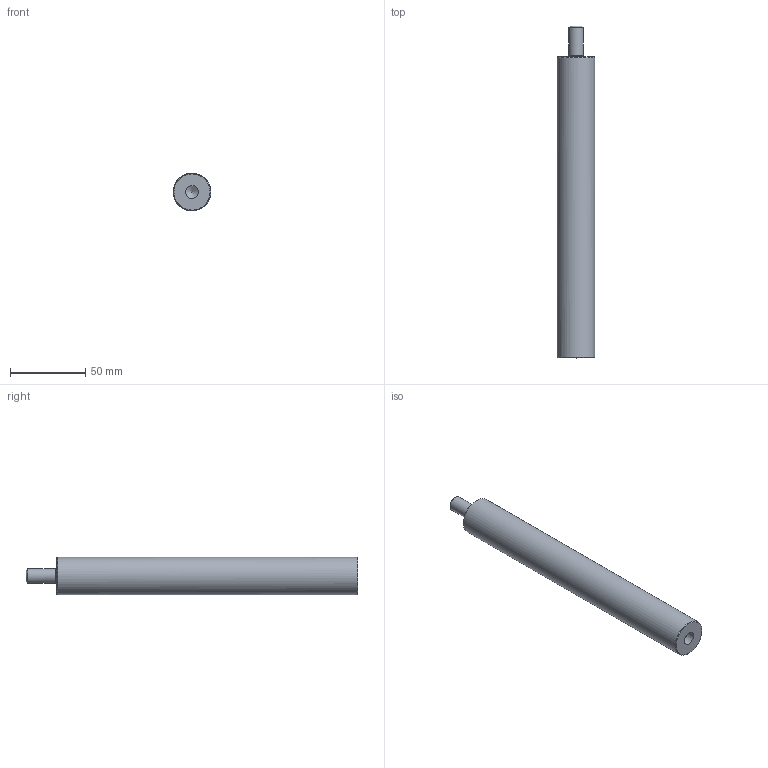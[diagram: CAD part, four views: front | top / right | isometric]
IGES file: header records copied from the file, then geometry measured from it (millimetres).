
Global section: file name: BM12-25D-200L; native system: unknown; preprocessor: unknown; author: unknown; organization: unknown; date: 20231024.140759; units: millimetre
Bounding box: 25 x 220.5 x 24.98 mm (x, y, z)
Volume: 98952.6 mm3; surface area: 17684.2 mm2
Topology: 1 solids, 1 shells, 11 faces, 23 edges, 15 vertices
Faces by surface type: bspline 11
